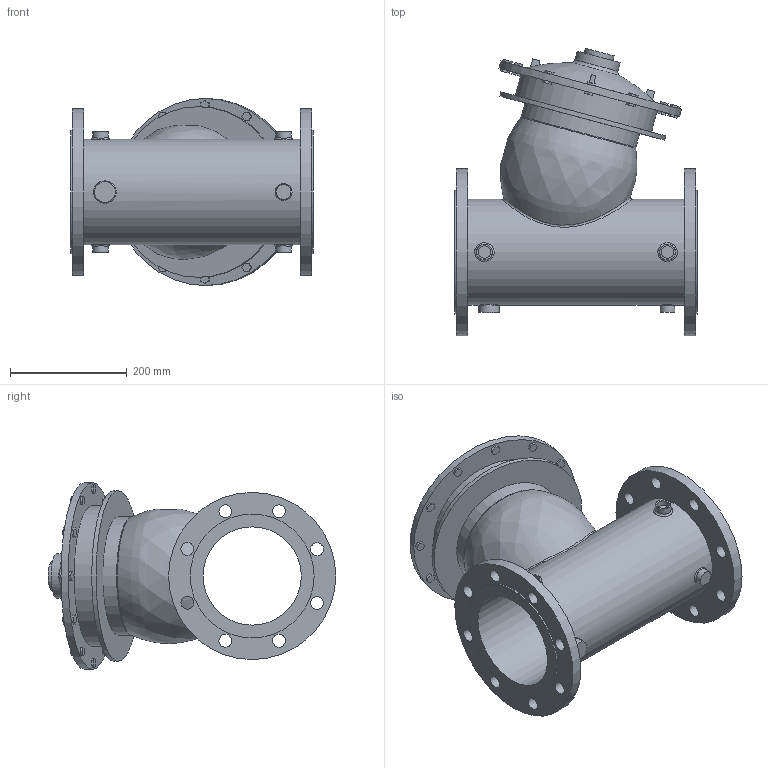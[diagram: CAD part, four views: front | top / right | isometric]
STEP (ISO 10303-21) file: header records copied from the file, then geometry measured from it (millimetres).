
FILE_DESCRIPTION(/* description */ ('VIC FP VALVE PRESSURE RELIEF SERIES 867-7UF (PN16)','CAx-IF Rec.Pracs.---Representation and Presentation of Product Manufacturing Information (PMI)---4.0---2014-10-13'),/* implementation_level */ '2;1');
FILE_NAME(/* name */ 'C:\Series 867-7UF\Series 867-7UF final\pn16\step\Victaulic_FP-Bermad_Valve Pressure Relief_Series 867-7UF (PN16)\Victaulic_FP-Bermad_Valve Pressure Relief_Series 867-7UF (PN16)_6 (150).stp',/* time_stamp */ '2021-09-02T19:17:06+06:00',/* author */ ('kkamble'),/* organization */ ('Victaulic'),/* preprocessor_version */ 'ST-DEVELOPER v17.2',/* originating_system */ 'Autodesk Inventor 2019',/* authorisation */ '');
FILE_SCHEMA (('AP242_MANAGED_MODEL_BASED_3D_ENGINEERING_MIM_LF { 1 0 10303 442 1 1 4 }'));
Length unit declared in the file: inch
Products named in the file (1): 867-7UF-06.0
Bounding box: 415.04 x 492 x 320.04 mm (x, y, z)
Volume: 12825505.8 mm3; surface area: 1043800.9 mm2
Topology: 6 solids, 6 shells, 265 faces, 662 edges, 449 vertices
Faces by surface type: plane 210, cylinder 44, bspline 9, torus 2
Full cylindrical faces by diameter (mm): 21.336 x4, 22 x16, 25.4 x1, 26.873 x4, 35.56 x1, 50.8 x1, 76.2 x1, 168.275 x1, 180.975 x1, 203.2 x1, 212 x2, 241.3 x1, 286.004 x2, 292.1 x1, 320.04 x1
Entity records: 9380 total; most frequent: CARTESIAN_POINT 2561, ORIENTED_EDGE 1336, DIRECTION 1263, EDGE_CURVE 668, LINE 511, VECTOR 511, VERTEX_POINT 455, AXIS2_PLACEMENT_3D 376
